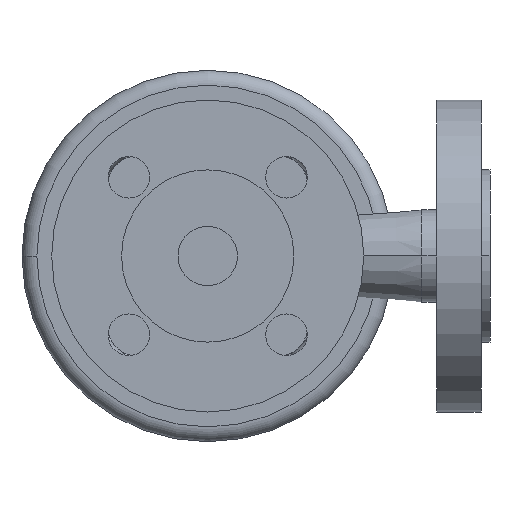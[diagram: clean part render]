
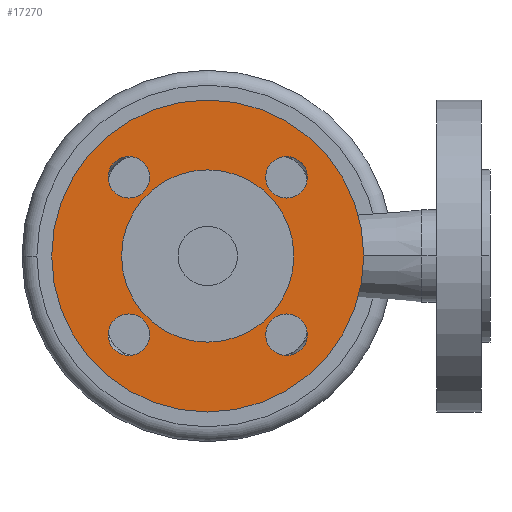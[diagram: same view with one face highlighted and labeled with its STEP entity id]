
A CAD part, front view. The second image highlights one B-rep face of the part: STEP entity #17270.
In plain terms, the highlighted planar face has unit normal (0, -1, 0).
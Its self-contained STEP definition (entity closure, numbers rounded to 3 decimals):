
#610=CARTESIAN_POINT('',(29.,3.,0.));
#620=VERTEX_POINT('',#610);
#650=CARTESIAN_POINT('',(0.,3.,0.));
#660=DIRECTION('',(0.,-1.,0.));
#670=DIRECTION('',(-1.,0.,0.));
#680=AXIS2_PLACEMENT_3D('',#650,#660,#670);
#690=CIRCLE('',#680,29.);
#700=CARTESIAN_POINT('',(-29.,3.,0.));
#710=VERTEX_POINT('',#700);
#720=EDGE_CURVE('',#710,#620,#690,.T.);
#3640=CARTESIAN_POINT('',(52.5,3.,0.));
#3650=VERTEX_POINT('',#3640);
#3680=CARTESIAN_POINT('',(0.,3.,0.));
#3690=DIRECTION('',(0.,1.,0.));
#3700=DIRECTION('',(1.,0.,0.));
#3710=AXIS2_PLACEMENT_3D('',#3680,#3690,#3700);
#3720=CIRCLE('',#3710,52.5);
#3730=CARTESIAN_POINT('',(-52.5,3.,0.));
#3740=VERTEX_POINT('',#3730);
#3750=EDGE_CURVE('',#3740,#3650,#3720,.T.);
#4130=CARTESIAN_POINT('',(33.517,3.,-26.517));
#4140=VERTEX_POINT('',#4130);
#4300=CARTESIAN_POINT('',(19.517,3.,-26.517));
#4310=VERTEX_POINT('',#4300);
#4340=CARTESIAN_POINT('',(26.517,3.,-26.517));
#4350=DIRECTION('',(0.,1.,0.));
#4360=DIRECTION('',(1.,0.,0.));
#4370=AXIS2_PLACEMENT_3D('',#4340,#4350,#4360);
#4380=CIRCLE('',#4370,7.);
#4390=EDGE_CURVE('',#4310,#4140,#4380,.T.);
#4620=CARTESIAN_POINT('',(19.517,3.,26.517));
#4630=VERTEX_POINT('',#4620);
#4790=CARTESIAN_POINT('',(33.517,3.,26.517));
#4800=VERTEX_POINT('',#4790);
#4830=CARTESIAN_POINT('',(26.517,3.,26.517));
#4840=DIRECTION('',(0.,1.,0.));
#4850=DIRECTION('',(1.,0.,0.));
#4860=AXIS2_PLACEMENT_3D('',#4830,#4840,#4850);
#4870=CIRCLE('',#4860,7.);
#4880=EDGE_CURVE('',#4800,#4630,#4870,.T.);
#5110=CARTESIAN_POINT('',(-33.517,3.,26.517));
#5120=VERTEX_POINT('',#5110);
#5150=CARTESIAN_POINT('',(-26.517,3.,26.517));
#5160=DIRECTION('',(0.,1.,0.));
#5170=DIRECTION('',(1.,0.,0.));
#5180=AXIS2_PLACEMENT_3D('',#5150,#5160,#5170);
#5190=CIRCLE('',#5180,7.);
#5200=CARTESIAN_POINT('',(-19.517,3.,26.517));
#5210=VERTEX_POINT('',#5200);
#5220=EDGE_CURVE('',#5120,#5210,#5190,.T.);
#5600=CARTESIAN_POINT('',(-33.517,3.,-26.517));
#5610=VERTEX_POINT('',#5600);
#5640=CARTESIAN_POINT('',(-26.517,3.,-26.517));
#5650=DIRECTION('',(0.,1.,0.));
#5660=DIRECTION('',(1.,0.,0.));
#5670=AXIS2_PLACEMENT_3D('',#5640,#5650,#5660);
#5680=CIRCLE('',#5670,7.);
#5690=CARTESIAN_POINT('',(-19.517,3.,-26.517));
#5700=VERTEX_POINT('',#5690);
#5710=EDGE_CURVE('',#5610,#5700,#5680,.T.);
#16920=CARTESIAN_POINT('',(0.,3.,0.));
#16930=DIRECTION('',(0.,1.,0.));
#16940=DIRECTION('',(0.,0.,1.));
#16950=AXIS2_PLACEMENT_3D('',#16920,#16930,#16940);
#16960=PLANE('',#16950);
#16970=ORIENTED_EDGE('',*,*,#5710,.T.);
#16980=EDGE_CURVE('',#5700,#5610,#5680,.T.);
#16990=ORIENTED_EDGE('',*,*,#16980,.T.);
#17000=EDGE_LOOP('',(#16990,#16970));
#17010=FACE_BOUND('',#17000,.T.);
#17020=EDGE_CURVE('',#5210,#5120,#5190,.T.);
#17030=ORIENTED_EDGE('',*,*,#17020,.T.);
#17040=ORIENTED_EDGE('',*,*,#5220,.T.);
#17050=EDGE_LOOP('',(#17040,#17030));
#17060=FACE_BOUND('',#17050,.T.);
#17070=EDGE_CURVE('',#4630,#4800,#4870,.T.);
#17080=ORIENTED_EDGE('',*,*,#17070,.T.);
#17090=ORIENTED_EDGE('',*,*,#4880,.T.);
#17100=EDGE_LOOP('',(#17090,#17080));
#17110=FACE_BOUND('',#17100,.T.);
#17120=EDGE_CURVE('',#4140,#4310,#4380,.T.);
#17130=ORIENTED_EDGE('',*,*,#17120,.T.);
#17140=ORIENTED_EDGE('',*,*,#4390,.T.);
#17150=EDGE_LOOP('',(#17140,#17130));
#17160=FACE_BOUND('',#17150,.T.);
#17170=ORIENTED_EDGE('',*,*,#3750,.F.);
#17180=EDGE_CURVE('',#3650,#3740,#3720,.T.);
#17190=ORIENTED_EDGE('',*,*,#17180,.F.);
#17200=EDGE_LOOP('',(#17190,#17170));
#17210=FACE_OUTER_BOUND('',#17200,.T.);
#17220=ORIENTED_EDGE('',*,*,#720,.F.);
#17230=EDGE_CURVE('',#620,#710,#690,.T.);
#17240=ORIENTED_EDGE('',*,*,#17230,.F.);
#17250=EDGE_LOOP('',(#17240,#17220));
#17260=FACE_BOUND('',#17250,.T.);
#17270=ADVANCED_FACE('',(#17010,#17060,#17110,#17160,#17210,#17260),
#16960,.F.);
